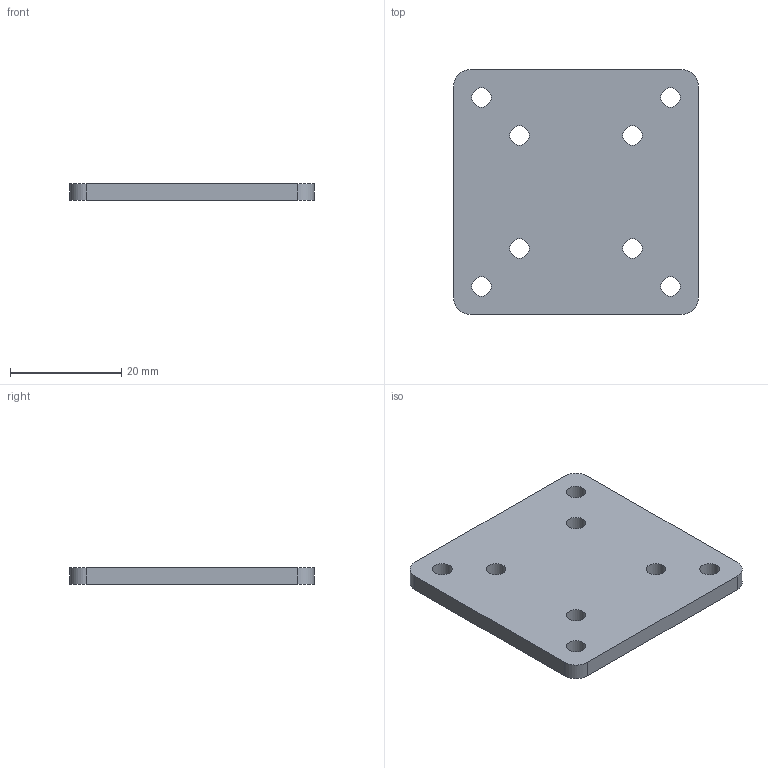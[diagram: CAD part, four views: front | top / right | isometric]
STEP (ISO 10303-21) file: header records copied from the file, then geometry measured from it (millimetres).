
FILE_DESCRIPTION(('Open CASCADE Model'),'2;1');
FILE_NAME('Open CASCADE Shape Model','2026-10-14T15:05:48',('Author'),( 'Open CASCADE'),'Open CASCADE STEP processor 7.8','Open CASCADE 7.8' ,'Unknown');
FILE_SCHEMA(('AUTOMOTIVE_DESIGN { 1 0 10303 214 1 1 1 1 }'));
Length unit declared in the file: millimetre
Products named in the file (1): Open CASCADE STEP translator 7.8 12
Bounding box: 44 x 44 x 3 mm (x, y, z)
Volume: 5553.9 mm3; surface area: 4479.1 mm2
Topology: 1 solids, 1 shells, 18 faces, 48 edges, 32 vertices
Faces by surface type: cylinder 12, plane 6
Full cylindrical faces by diameter (mm): 3.5 x8
Entity records: 1296 total; most frequent: CARTESIAN_POINT 303, DIRECTION 188, ORIENTED_EDGE 96, LINE 96, VECTOR 96, PCURVE 96, DEFINITIONAL_REPRESENTATION 96, EDGE_CURVE 48
